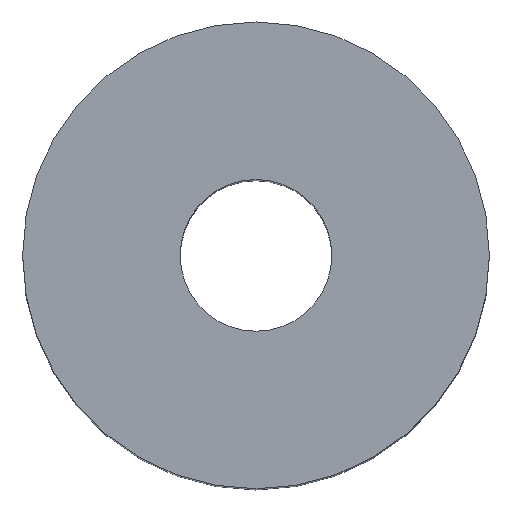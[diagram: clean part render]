
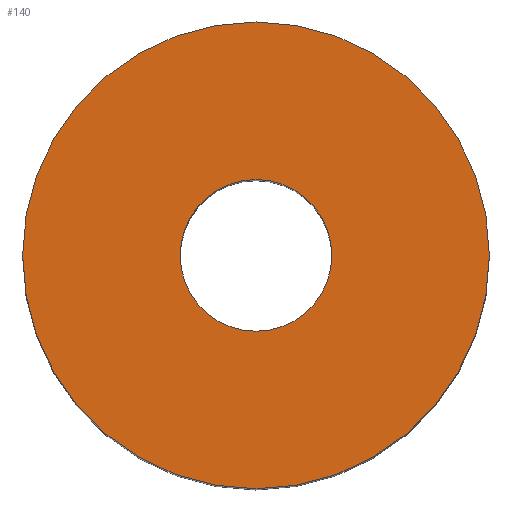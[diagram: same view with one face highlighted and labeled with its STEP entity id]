
A CAD part, top view. The second image highlights one B-rep face of the part: STEP entity #140.
In plain terms, the highlighted planar face has unit normal (0, 0, 1).
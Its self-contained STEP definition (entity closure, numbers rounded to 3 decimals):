
#24 = VERTEX_POINT('',#25);
#25 = CARTESIAN_POINT('',(8.,0.,24.));
#32 = CYLINDRICAL_SURFACE('',#33,8.);
#33 = AXIS2_PLACEMENT_3D('',#34,#35,#36);
#34 = CARTESIAN_POINT('',(0.,0.,0.));
#35 = DIRECTION('',(-0.,-0.,-1.));
#36 = DIRECTION('',(1.,0.,0.));
#51 = EDGE_CURVE('',#24,#24,#52,.T.);
#52 = SURFACE_CURVE('',#53,(#58,#65),.PCURVE_S1.);
#53 = CIRCLE('',#54,8.);
#54 = AXIS2_PLACEMENT_3D('',#55,#56,#57);
#55 = CARTESIAN_POINT('',(0.,0.,24.));
#56 = DIRECTION('',(0.,0.,1.));
#57 = DIRECTION('',(1.,0.,0.));
#58 = PCURVE('',#32,#59);
#59 = DEFINITIONAL_REPRESENTATION('',(#60),#64);
#60 = LINE('',#61,#62);
#61 = CARTESIAN_POINT('',(-0.,-24.));
#62 = VECTOR('',#63,1.);
#63 = DIRECTION('',(-1.,0.));
#64 = ( GEOMETRIC_REPRESENTATION_CONTEXT(2) 
PARAMETRIC_REPRESENTATION_CONTEXT() REPRESENTATION_CONTEXT('2D SPACE',''
  ) );
#65 = PCURVE('',#66,#71);
#66 = PLANE('',#67);
#67 = AXIS2_PLACEMENT_3D('',#68,#69,#70);
#68 = CARTESIAN_POINT('',(0.,0.,24.));
#69 = DIRECTION('',(0.,0.,1.));
#70 = DIRECTION('',(1.,0.,-0.));
#71 = DEFINITIONAL_REPRESENTATION('',(#72),#76);
#72 = CIRCLE('',#73,8.);
#73 = AXIS2_PLACEMENT_2D('',#74,#75);
#74 = CARTESIAN_POINT('',(0.,0.));
#75 = DIRECTION('',(1.,0.));
#76 = ( GEOMETRIC_REPRESENTATION_CONTEXT(2) 
PARAMETRIC_REPRESENTATION_CONTEXT() REPRESENTATION_CONTEXT('2D SPACE',''
  ) );
#129 = CYLINDRICAL_SURFACE('',#130,2.6);
#130 = AXIS2_PLACEMENT_3D('',#131,#132,#133);
#131 = CARTESIAN_POINT('',(0.,0.,0.));
#132 = DIRECTION('',(-0.,-0.,-1.));
#133 = DIRECTION('',(1.,0.,0.));
#140 = ADVANCED_FACE('',(#141,#144),#66,.T.);
#141 = FACE_BOUND('',#142,.T.);
#142 = EDGE_LOOP('',(#143));
#143 = ORIENTED_EDGE('',*,*,#51,.T.);
#144 = FACE_BOUND('',#145,.T.);
#145 = EDGE_LOOP('',(#146));
#146 = ORIENTED_EDGE('',*,*,#147,.F.);
#147 = EDGE_CURVE('',#148,#148,#150,.T.);
#148 = VERTEX_POINT('',#149);
#149 = CARTESIAN_POINT('',(2.6,0.,24.));
#150 = SURFACE_CURVE('',#151,(#156,#163),.PCURVE_S1.);
#151 = CIRCLE('',#152,2.6);
#152 = AXIS2_PLACEMENT_3D('',#153,#154,#155);
#153 = CARTESIAN_POINT('',(0.,0.,24.));
#154 = DIRECTION('',(0.,0.,1.));
#155 = DIRECTION('',(1.,0.,0.));
#156 = PCURVE('',#66,#157);
#157 = DEFINITIONAL_REPRESENTATION('',(#158),#162);
#158 = CIRCLE('',#159,2.6);
#159 = AXIS2_PLACEMENT_2D('',#160,#161);
#160 = CARTESIAN_POINT('',(0.,0.));
#161 = DIRECTION('',(1.,0.));
#162 = ( GEOMETRIC_REPRESENTATION_CONTEXT(2) 
PARAMETRIC_REPRESENTATION_CONTEXT() REPRESENTATION_CONTEXT('2D SPACE',''
  ) );
#163 = PCURVE('',#129,#164);
#164 = DEFINITIONAL_REPRESENTATION('',(#165),#169);
#165 = LINE('',#166,#167);
#166 = CARTESIAN_POINT('',(-0.,-24.));
#167 = VECTOR('',#168,1.);
#168 = DIRECTION('',(-1.,0.));
#169 = ( GEOMETRIC_REPRESENTATION_CONTEXT(2) 
PARAMETRIC_REPRESENTATION_CONTEXT() REPRESENTATION_CONTEXT('2D SPACE',''
  ) );
